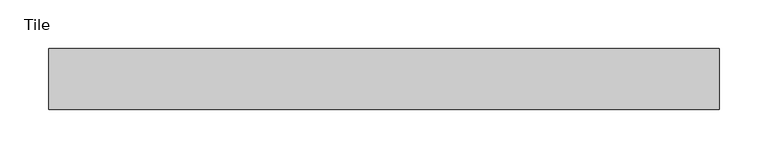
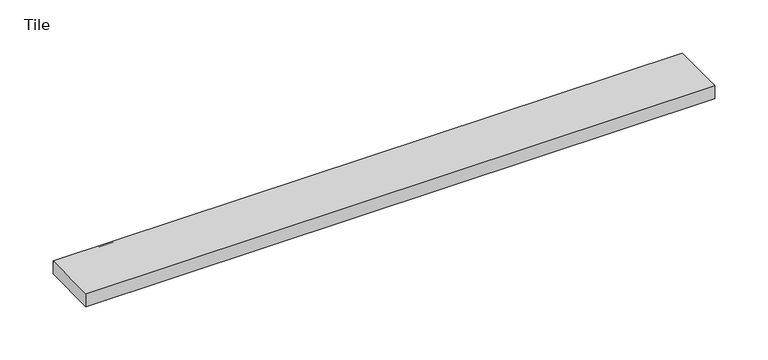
"""IFC4 building model written with IfcOpenShell, lengths in millimetres: sanitary terminal geometry, ZZZ_do not use_PF_ST_grating for showerdrain c INT_Aco : Tile."""

from ifc_helpers import new_model, si_unit, point, frame, frame_2d, origin, place, context, project, spatial, polyline, circle_curve, trimmed, segment, composite_curve, outline, extrude, source, transform, mapped, element, save


def tile_3ef8edfc(model_context):
    return source(origin(), model_context, "Body", "SweptSolid", [
        extrude(outline(polyline([(342.5, 31.0), (342.5, -31.0), (-342.5, -31.0), (-342.5, 31.0), (342.5, 31.0)])), frame((0.0, 0.0, -15.0), z_axis=(0.0, 0.0, 1.0), x_axis=(1.0, 0.0, 0.0)), (0.0, 0.0, 1.0), 15.0),
        extrude(outline(composite_curve([segment(polyline([(31.0, -15.0), (-31.0, -15.0), (-31.0, -1.977849)]), True, "CONTINUOUS"), segment(trimmed(circle_curve(frame_2d((-29.022151, -1.977849)), 1.977849), [point((-31.0, -1.977849))], [point((-29.022151, 0.0))], False, "CARTESIAN"), True, "CONTINUOUS"), segment(polyline([(-29.022151, 0.0), (29.022151, 0.0)]), True, "CONTINUOUS"), segment(trimmed(circle_curve(frame_2d((29.022151, -1.977849)), 1.977849), [point((29.022151, 0.0))], [point((31.0, -1.977849))], False, "CARTESIAN"), True, "CONTINUOUS"), segment(polyline([(31.0, -1.977849), (31.0, -15.0)]), True, "CONTINUOUS")], self_intersect=False)), frame((-342.5, 0.0, 0.0), z_axis=(1.0, 0.0, 0.0), x_axis=(0.0, 1.0, 0.0)), (0.0, 0.0, 1.0), 685.0),
    ])


if __name__ == "__main__":
    model = new_model("IFC4")
    model_context = context("Model", 3, world=origin())
    ifc_project = project(units=[si_unit("LENGTHUNIT", "METRE", prefix="MILLI")], contexts=[model_context])
    site = spatial("IfcSite", under=ifc_project)
    building = spatial("IfcBuilding", under=site)
    placement = place(None, origin())
    tile_shape = tile_3ef8edfc(model_context)
    element("IfcSanitaryTerminal", 1, ObjectType="ZZZ_do not use_PF_ST_grating for showerdrain c INT_Aco : Tile", at=placement, inside=building, context=model_context, shape_type="MappedRepresentation", body=[
        mapped(tile_shape, transform((0.0, 0.0, 0.0), x_axis=(1.0, 0.0, 0.0), y_axis=(0.0, 1.0, 0.0), z_axis=(0.0, 0.0, 1.0))),
    ])
    save(model, "model.ifc")
